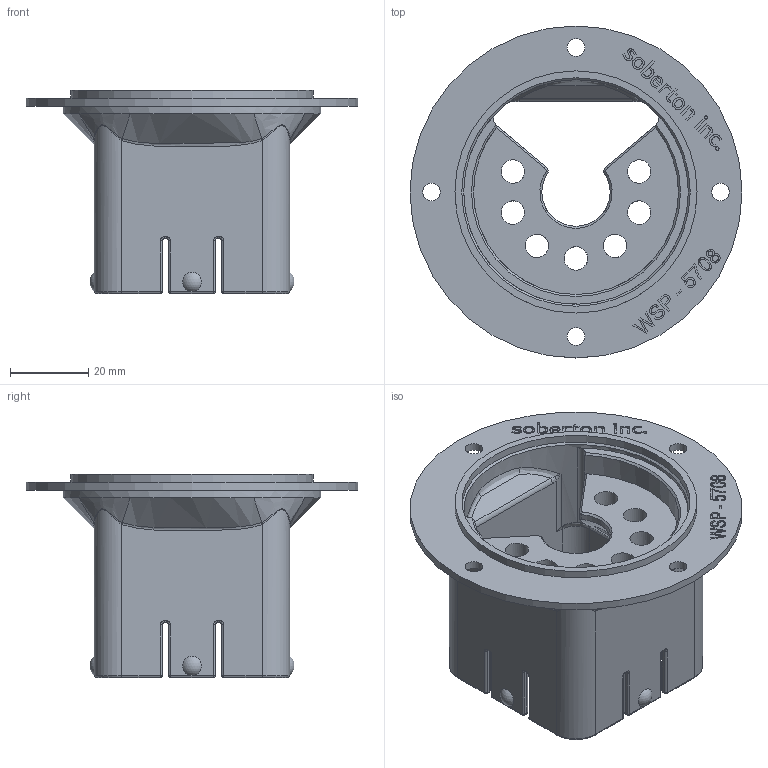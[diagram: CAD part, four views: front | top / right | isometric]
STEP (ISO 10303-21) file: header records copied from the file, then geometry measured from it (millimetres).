
FILE_DESCRIPTION(/* description */ ('Alibre Inc.'),/* implementation_level */ '2;1');
FILE_NAME(/* name */ 'export-B422BC45-5219-4FA2-88B7-B26D459DA6AB',/* time_stamp */ '2020-10-04T07:59:12-05:00',/* author */ (''),/* organization */ (''),/* preprocessor_version */ 'ST-DEVELOPER v17',/* originating_system */ 'Alibre',/* authorisation */ '');
FILE_SCHEMA (('AUTOMOTIVE_DESIGN'));
Length unit declared in the file: millimetre
Bounding box: 85 x 85 x 52 mm (x, y, z)
Volume: 40698 mm3; surface area: 27728.8 mm2
Topology: 1 solids, 3 shells, 717 faces, 1892 edges, 1181 vertices
Faces by surface type: bspline 329, plane 175, cylinder 136, sphere 36, torus 36, cone 5
Full cylindrical faces by diameter (mm): 0.649 x1, 1.055 x1, 4.5 x4, 6 x7, 57.5 x1, 58.5 x1, 62 x1, 66 x1, 85 x1
Entity records: 32993 total; most frequent: CARTESIAN_POINT 17964, ORIENTED_EDGE 3652, DIRECTION 2011, EDGE_CURVE 1826, VERTEX_POINT 1168, VECTOR 816, LINE 816, EDGE_LOOP 794
